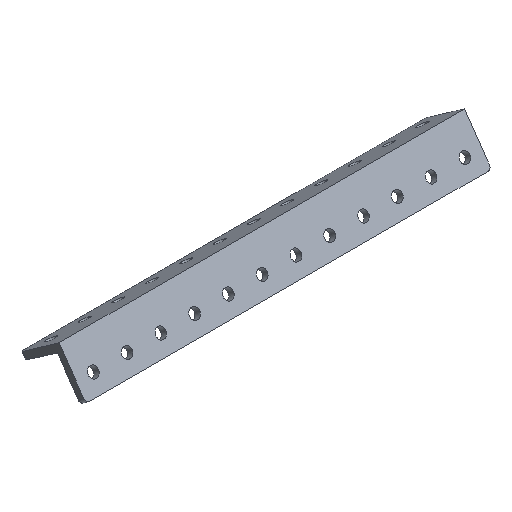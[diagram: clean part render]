
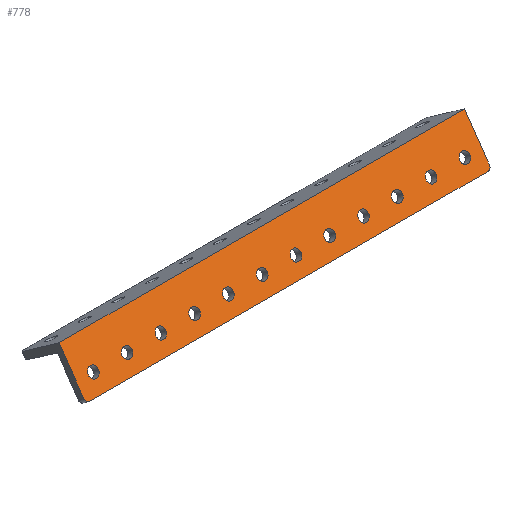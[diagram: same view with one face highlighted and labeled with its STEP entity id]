
A CAD part, isometric view. The second image highlights one B-rep face of the part: STEP entity #778.
In plain terms, the highlighted planar face has unit normal (0, -0.819, 0.574) as drawn and (0, 0, -1) by its records, which use the part's own axes.
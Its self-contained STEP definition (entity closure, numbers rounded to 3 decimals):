
#43=FACE_BOUND('',#169,.T.);
#44=FACE_BOUND('',#170,.T.);
#45=FACE_BOUND('',#171,.T.);
#46=FACE_BOUND('',#172,.T.);
#47=FACE_BOUND('',#173,.T.);
#48=FACE_BOUND('',#174,.T.);
#49=FACE_BOUND('',#175,.T.);
#50=FACE_BOUND('',#176,.T.);
#51=FACE_BOUND('',#177,.T.);
#52=FACE_BOUND('',#178,.T.);
#53=FACE_BOUND('',#179,.T.);
#54=FACE_BOUND('',#180,.T.);
#72=PLANE('',#885);
#108=FACE_OUTER_BOUND('',#168,.T.);
#168=EDGE_LOOP('',(#675,#676,#677,#678,#679,#680));
#169=EDGE_LOOP('',(#681));
#170=EDGE_LOOP('',(#682));
#171=EDGE_LOOP('',(#683));
#172=EDGE_LOOP('',(#684));
#173=EDGE_LOOP('',(#685));
#174=EDGE_LOOP('',(#686));
#175=EDGE_LOOP('',(#687));
#176=EDGE_LOOP('',(#688));
#177=EDGE_LOOP('',(#689));
#178=EDGE_LOOP('',(#690));
#179=EDGE_LOOP('',(#691));
#180=EDGE_LOOP('',(#692));
#207=LINE('',#1188,#253);
#224=LINE('',#1276,#270);
#238=LINE('',#1328,#284);
#239=LINE('',#1329,#285);
#253=VECTOR('',#949,10.);
#270=VECTOR('',#1052,10.);
#284=VECTOR('',#1116,10.);
#285=VECTOR('',#1117,10.);
#302=CIRCLE('',#815,1.);
#317=CIRCLE('',#833,1.);
#319=CIRCLE('',#837,1.5);
#320=CIRCLE('',#839,1.5);
#321=CIRCLE('',#841,1.5);
#322=CIRCLE('',#843,1.5);
#323=CIRCLE('',#845,1.5);
#324=CIRCLE('',#847,1.5);
#325=CIRCLE('',#849,1.5);
#326=CIRCLE('',#851,1.5);
#327=CIRCLE('',#853,1.5);
#328=CIRCLE('',#855,1.5);
#329=CIRCLE('',#857,1.5);
#330=CIRCLE('',#859,1.5);
#364=VERTEX_POINT('',#1175);
#365=VERTEX_POINT('',#1176);
#369=VERTEX_POINT('',#1186);
#383=VERTEX_POINT('',#1219);
#385=VERTEX_POINT('',#1227);
#386=VERTEX_POINT('',#1231);
#387=VERTEX_POINT('',#1235);
#388=VERTEX_POINT('',#1239);
#389=VERTEX_POINT('',#1243);
#390=VERTEX_POINT('',#1247);
#391=VERTEX_POINT('',#1251);
#392=VERTEX_POINT('',#1255);
#393=VERTEX_POINT('',#1259);
#394=VERTEX_POINT('',#1263);
#395=VERTEX_POINT('',#1267);
#396=VERTEX_POINT('',#1271);
#397=VERTEX_POINT('',#1275);
#410=VERTEX_POINT('',#1327);
#434=EDGE_CURVE('',#364,#365,#302,.T.);
#440=EDGE_CURVE('',#364,#369,#207,.T.);
#456=EDGE_CURVE('',#383,#369,#317,.T.);
#461=EDGE_CURVE('',#385,#385,#319,.T.);
#463=EDGE_CURVE('',#386,#386,#320,.T.);
#465=EDGE_CURVE('',#387,#387,#321,.T.);
#467=EDGE_CURVE('',#388,#388,#322,.T.);
#469=EDGE_CURVE('',#389,#389,#323,.T.);
#471=EDGE_CURVE('',#390,#390,#324,.T.);
#473=EDGE_CURVE('',#391,#391,#325,.T.);
#475=EDGE_CURVE('',#392,#392,#326,.T.);
#477=EDGE_CURVE('',#393,#393,#327,.T.);
#479=EDGE_CURVE('',#394,#394,#328,.T.);
#481=EDGE_CURVE('',#395,#395,#329,.T.);
#483=EDGE_CURVE('',#396,#396,#330,.T.);
#484=EDGE_CURVE('',#397,#365,#224,.T.);
#510=EDGE_CURVE('',#410,#383,#238,.T.);
#511=EDGE_CURVE('',#397,#410,#239,.T.);
#675=ORIENTED_EDGE('',*,*,#434,.F.);
#676=ORIENTED_EDGE('',*,*,#440,.T.);
#677=ORIENTED_EDGE('',*,*,#456,.F.);
#678=ORIENTED_EDGE('',*,*,#510,.F.);
#679=ORIENTED_EDGE('',*,*,#511,.F.);
#680=ORIENTED_EDGE('',*,*,#484,.T.);
#681=ORIENTED_EDGE('',*,*,#461,.T.);
#682=ORIENTED_EDGE('',*,*,#463,.T.);
#683=ORIENTED_EDGE('',*,*,#465,.T.);
#684=ORIENTED_EDGE('',*,*,#467,.T.);
#685=ORIENTED_EDGE('',*,*,#469,.T.);
#686=ORIENTED_EDGE('',*,*,#471,.T.);
#687=ORIENTED_EDGE('',*,*,#473,.T.);
#688=ORIENTED_EDGE('',*,*,#475,.T.);
#689=ORIENTED_EDGE('',*,*,#477,.T.);
#690=ORIENTED_EDGE('',*,*,#479,.T.);
#691=ORIENTED_EDGE('',*,*,#481,.T.);
#692=ORIENTED_EDGE('',*,*,#483,.T.);
#778=ADVANCED_FACE('',(#108,#43,#44,#45,#46,#47,#48,#49,#50,#51,#52,#53,
#54),#72,.T.);
#815=AXIS2_PLACEMENT_3D('',#1177,#939,#940);
#833=AXIS2_PLACEMENT_3D('',#1220,#982,#983);
#837=AXIS2_PLACEMENT_3D('',#1229,#993,#994);
#839=AXIS2_PLACEMENT_3D('',#1233,#998,#999);
#841=AXIS2_PLACEMENT_3D('',#1237,#1003,#1004);
#843=AXIS2_PLACEMENT_3D('',#1241,#1008,#1009);
#845=AXIS2_PLACEMENT_3D('',#1245,#1013,#1014);
#847=AXIS2_PLACEMENT_3D('',#1249,#1018,#1019);
#849=AXIS2_PLACEMENT_3D('',#1253,#1023,#1024);
#851=AXIS2_PLACEMENT_3D('',#1257,#1028,#1029);
#853=AXIS2_PLACEMENT_3D('',#1261,#1033,#1034);
#855=AXIS2_PLACEMENT_3D('',#1265,#1038,#1039);
#857=AXIS2_PLACEMENT_3D('',#1269,#1043,#1044);
#859=AXIS2_PLACEMENT_3D('',#1273,#1048,#1049);
#885=AXIS2_PLACEMENT_3D('',#1326,#1114,#1115);
#939=DIRECTION('center_axis',(0.,0.,1.));
#940=DIRECTION('ref_axis',(-0.707,0.707,0.));
#949=DIRECTION('',(1.,0.,0.));
#982=DIRECTION('center_axis',(0.,0.,1.));
#983=DIRECTION('ref_axis',(0.707,0.707,0.));
#993=DIRECTION('center_axis',(0.,0.,1.));
#994=DIRECTION('ref_axis',(0.,-1.,0.));
#998=DIRECTION('center_axis',(0.,0.,1.));
#999=DIRECTION('ref_axis',(0.,-1.,0.));
#1003=DIRECTION('center_axis',(0.,0.,1.));
#1004=DIRECTION('ref_axis',(0.,-1.,0.));
#1008=DIRECTION('center_axis',(0.,0.,1.));
#1009=DIRECTION('ref_axis',(0.,-1.,0.));
#1013=DIRECTION('center_axis',(0.,0.,1.));
#1014=DIRECTION('ref_axis',(0.,-1.,0.));
#1018=DIRECTION('center_axis',(0.,0.,1.));
#1019=DIRECTION('ref_axis',(0.,-1.,0.));
#1023=DIRECTION('center_axis',(0.,0.,1.));
#1024=DIRECTION('ref_axis',(0.,-1.,0.));
#1028=DIRECTION('center_axis',(0.,0.,1.));
#1029=DIRECTION('ref_axis',(0.,-1.,0.));
#1033=DIRECTION('center_axis',(0.,0.,1.));
#1034=DIRECTION('ref_axis',(0.,-1.,0.));
#1038=DIRECTION('center_axis',(0.,0.,1.));
#1039=DIRECTION('ref_axis',(0.,-1.,0.));
#1043=DIRECTION('center_axis',(0.,0.,1.));
#1044=DIRECTION('ref_axis',(0.,-1.,0.));
#1048=DIRECTION('center_axis',(0.,0.,1.));
#1049=DIRECTION('ref_axis',(0.,-1.,0.));
#1052=DIRECTION('',(0.,1.,0.));
#1114=DIRECTION('center_axis',(0.,0.,-1.));
#1115=DIRECTION('ref_axis',(-1.,0.,0.));
#1116=DIRECTION('',(0.,1.,0.));
#1117=DIRECTION('',(1.,0.,0.));
#1175=CARTESIAN_POINT('',(1.,14.,0.));
#1176=CARTESIAN_POINT('',(0.,13.,0.));
#1177=CARTESIAN_POINT('Origin',(1.,13.,0.));
#1186=CARTESIAN_POINT('',(119.,14.,0.));
#1188=CARTESIAN_POINT('',(120.,14.,0.));
#1219=CARTESIAN_POINT('',(120.,13.,0.));
#1220=CARTESIAN_POINT('Origin',(119.,13.,0.));
#1227=CARTESIAN_POINT('',(115.,10.5,0.));
#1229=CARTESIAN_POINT('Origin',(115.,9.,0.));
#1231=CARTESIAN_POINT('',(105.,10.5,0.));
#1233=CARTESIAN_POINT('Origin',(105.,9.,0.));
#1235=CARTESIAN_POINT('',(95.,10.5,0.));
#1237=CARTESIAN_POINT('Origin',(95.,9.,0.));
#1239=CARTESIAN_POINT('',(85.,10.5,0.));
#1241=CARTESIAN_POINT('Origin',(85.,9.,0.));
#1243=CARTESIAN_POINT('',(75.,10.5,0.));
#1245=CARTESIAN_POINT('Origin',(75.,9.,0.));
#1247=CARTESIAN_POINT('',(65.,10.5,0.));
#1249=CARTESIAN_POINT('Origin',(65.,9.,0.));
#1251=CARTESIAN_POINT('',(55.,10.5,0.));
#1253=CARTESIAN_POINT('Origin',(55.,9.,0.));
#1255=CARTESIAN_POINT('',(45.,10.5,0.));
#1257=CARTESIAN_POINT('Origin',(45.,9.,0.));
#1259=CARTESIAN_POINT('',(35.,10.5,0.));
#1261=CARTESIAN_POINT('Origin',(35.,9.,0.));
#1263=CARTESIAN_POINT('',(25.,10.5,0.));
#1265=CARTESIAN_POINT('Origin',(25.,9.,0.));
#1267=CARTESIAN_POINT('',(15.,10.5,0.));
#1269=CARTESIAN_POINT('Origin',(15.,9.,0.));
#1271=CARTESIAN_POINT('',(5.,10.5,0.));
#1273=CARTESIAN_POINT('Origin',(5.,9.,0.));
#1275=CARTESIAN_POINT('',(0.,0.,0.));
#1276=CARTESIAN_POINT('',(0.,0.,0.));
#1326=CARTESIAN_POINT('Origin',(120.,0.,0.));
#1327=CARTESIAN_POINT('',(120.,0.,0.));
#1328=CARTESIAN_POINT('',(120.,0.,0.));
#1329=CARTESIAN_POINT('',(0.,0.,0.));
